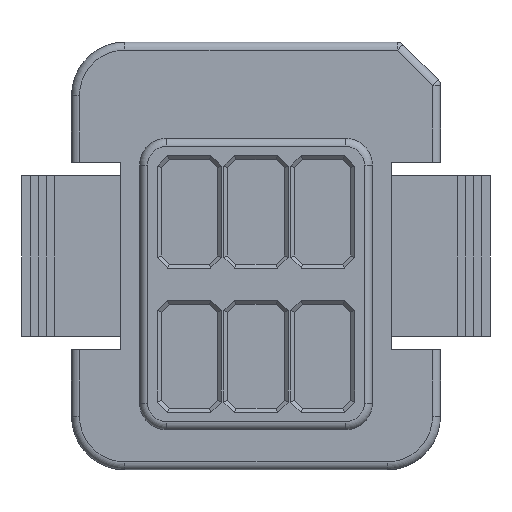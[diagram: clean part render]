
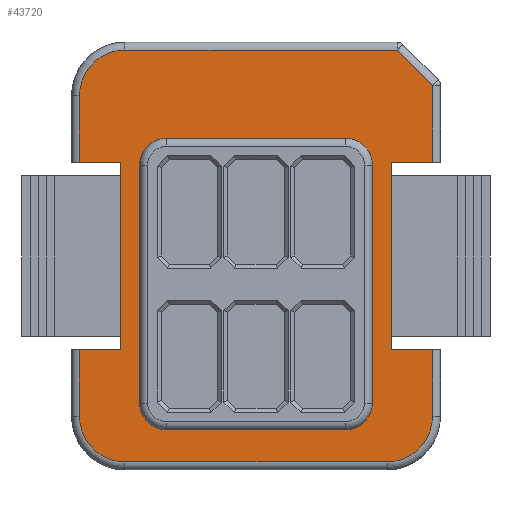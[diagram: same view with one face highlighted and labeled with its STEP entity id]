
A CAD part, front view. The second image highlights one B-rep face of the part: STEP entity #43720.
In plain terms, the highlighted planar face has unit normal (0, -1, 0).
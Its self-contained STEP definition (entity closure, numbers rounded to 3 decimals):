
#3840=CARTESIAN_POINT('',(-4.4,8.639,
4.235));
#3850=VERTEX_POINT('',#3840);
#3880=CARTESIAN_POINT('',(-2.7,8.639,
4.235));
#3890=DIRECTION('',(0.,1.,0.));
#3900=DIRECTION('',(0.,0.,1.));
#3910=AXIS2_PLACEMENT_3D('',#3880,#3890,#3900);
#3920=CIRCLE('',#3910,1.7);
#3930=CARTESIAN_POINT('',(-2.7,8.639,
2.535));
#3940=VERTEX_POINT('',#3930);
#3950=EDGE_CURVE('',#3940,#3850,#3920,.T.);
#4520=CARTESIAN_POINT('',(-2.85,8.639,
13.735));
#4530=VERTEX_POINT('',#4520);
#4560=CARTESIAN_POINT('',(-2.85,8.639,
12.81));
#4570=DIRECTION('',(0.,0.,1.));
#4580=VECTOR('',#4570,1.);
#4590=LINE('',#4560,#4580);
#4600=CARTESIAN_POINT('',(-2.85,8.639,
6.735));
#4610=VERTEX_POINT('',#4600);
#4620=EDGE_CURVE('',#4610,#4530,#4590,.T.);
#10100=CARTESIAN_POINT('',(7.1,8.639,
2.535));
#10110=VERTEX_POINT('',#10100);
#10160=CARTESIAN_POINT('',(7.1,8.639,
4.235));
#10170=DIRECTION('',(0.,-1.,0.));
#10180=DIRECTION('',(0.,0.,-1.));
#10190=AXIS2_PLACEMENT_3D('',#10160,#10170,#10180);
#10200=CIRCLE('',#10190,1.7);
#10210=CARTESIAN_POINT('',(8.8,8.639,
4.235));
#10220=VERTEX_POINT('',#10210);
#10230=EDGE_CURVE('',#10110,#10220,#10200,.T.);
#10550=CARTESIAN_POINT('',(-1.15,8.639,
3.735));
#10560=VERTEX_POINT('',#10550);
#10590=CARTESIAN_POINT('',(-1.15,8.639,
4.735));
#10600=DIRECTION('',(0.,1.,0.));
#10610=DIRECTION('',(0.,0.,1.));
#10620=AXIS2_PLACEMENT_3D('',#10590,#10600,#10610);
#10630=CIRCLE('',#10620,1.);
#10640=CARTESIAN_POINT('',(-2.15,8.639,
4.735));
#10650=VERTEX_POINT('',#10640);
#10660=EDGE_CURVE('',#10560,#10650,#10630,.T.);
#11310=CARTESIAN_POINT('',(-6.65,8.639,
14.635));
#11320=DIRECTION('',(-1.,0.,0.));
#11330=VECTOR('',#11320,1.);
#11340=LINE('',#11310,#11330);
#11350=CARTESIAN_POINT('',(5.55,8.639,
14.635));
#11360=VERTEX_POINT('',#11350);
#11370=CARTESIAN_POINT('',(-1.15,8.639,
14.635));
#11380=VERTEX_POINT('',#11370);
#11390=EDGE_CURVE('',#11360,#11380,#11340,.T.);
#13080=CARTESIAN_POINT('',(5.55,8.639,
3.735));
#13090=VERTEX_POINT('',#13080);
#13120=CARTESIAN_POINT('',(-6.65,8.639,
3.735));
#13130=DIRECTION('',(-1.,0.,0.));
#13140=VECTOR('',#13130,1.);
#13150=LINE('',#13120,#13140);
#13160=EDGE_CURVE('',#13090,#10560,#13150,.T.);
#23860=CARTESIAN_POINT('',(-2.15,8.639,
13.635));
#23870=VERTEX_POINT('',#23860);
#23900=CARTESIAN_POINT('',(-1.15,8.639,
13.635));
#23910=DIRECTION('',(0.,-1.,0.));
#23920=DIRECTION('',(0.,0.,-1.));
#23930=AXIS2_PLACEMENT_3D('',#23900,#23910,#23920);
#23940=CIRCLE('',#23930,1.);
#23950=EDGE_CURVE('',#11380,#23870,#23940,.T.);
#24390=CARTESIAN_POINT('',(-2.15,8.639,
12.81));
#24400=DIRECTION('',(0.,0.,-1.));
#24410=VECTOR('',#24400,1.);
#24420=LINE('',#24390,#24410);
#24430=EDGE_CURVE('',#23870,#10650,#24420,.T.);
#24870=CARTESIAN_POINT('',(-4.4,8.639,
13.735));
#24880=VERTEX_POINT('',#24870);
#24930=CARTESIAN_POINT('',(11.35,8.639,
13.735));
#24940=DIRECTION('',(-1.,0.,0.));
#24950=VECTOR('',#24940,1.);
#24960=LINE('',#24930,#24950);
#24970=EDGE_CURVE('',#4530,#24880,#24960,.T.);
#27510=CARTESIAN_POINT('',(8.8,8.639,
6.735));
#27520=VERTEX_POINT('',#27510);
#27640=CARTESIAN_POINT('',(8.8,8.639,
12.81));
#27650=DIRECTION('',(0.,0.,1.));
#27660=VECTOR('',#27650,1.);
#27670=LINE('',#27640,#27660);
#27680=EDGE_CURVE('',#10220,#27520,#27670,.T.);
#27850=CARTESIAN_POINT('',(-2.7,8.639,
17.935));
#27860=VERTEX_POINT('',#27850);
#27890=CARTESIAN_POINT('',(-2.7,8.639,
16.235));
#27900=DIRECTION('',(0.,-1.,0.));
#27910=DIRECTION('',(0.,0.,-1.));
#27920=AXIS2_PLACEMENT_3D('',#27890,#27900,#27910);
#27930=CIRCLE('',#27920,1.7);
#27940=CARTESIAN_POINT('',(-4.4,8.639,
16.235));
#27950=VERTEX_POINT('',#27940);
#27960=EDGE_CURVE('',#27860,#27950,#27930,.T.);
#28300=CARTESIAN_POINT('',(-4.4,8.639,
12.81));
#28310=DIRECTION('',(0.,0.,1.));
#28320=VECTOR('',#28310,1.);
#28330=LINE('',#28300,#28320);
#28340=EDGE_CURVE('',#24880,#27950,#28330,.T.);
#30950=CARTESIAN_POINT('',(-6.65,8.639,
6.735));
#30960=DIRECTION('',(-1.,0.,0.));
#30970=VECTOR('',#30960,1.);
#30980=LINE('',#30950,#30970);
#30990=CARTESIAN_POINT('',(7.25,8.639,
6.735));
#31000=VERTEX_POINT('',#30990);
#31010=EDGE_CURVE('',#27520,#31000,#30980,.T.);
#40640=CARTESIAN_POINT('',(11.05,8.639,
6.735));
#40650=DIRECTION('',(1.,0.,0.));
#40660=VECTOR('',#40650,1.);
#40670=LINE('',#40640,#40660);
#40680=CARTESIAN_POINT('',(-4.4,8.639,
6.735));
#40690=VERTEX_POINT('',#40680);
#40700=EDGE_CURVE('',#40690,#4610,#40670,.T.);
#41030=CARTESIAN_POINT('',(-4.4,8.639,
12.81));
#41040=DIRECTION('',(0.,0.,1.));
#41050=VECTOR('',#41040,1.);
#41060=LINE('',#41030,#41050);
#41070=EDGE_CURVE('',#3850,#40690,#41060,.T.);
#42170=CARTESIAN_POINT('',(6.55,8.639,
13.635));
#42180=VERTEX_POINT('',#42170);
#42210=CARTESIAN_POINT('',(6.55,8.639,
12.81));
#42220=DIRECTION('',(0.,0.,-1.));
#42230=VECTOR('',#42220,1.);
#42240=LINE('',#42210,#42230);
#42250=CARTESIAN_POINT('',(6.55,8.639,
4.735));
#42260=VERTEX_POINT('',#42250);
#42270=EDGE_CURVE('',#42180,#42260,#42240,.T.);
#42830=CARTESIAN_POINT('',(-6.65,8.639,
2.535));
#42840=DIRECTION('',(1.,0.,0.));
#42850=VECTOR('',#42840,1.);
#42860=LINE('',#42830,#42850);
#42870=EDGE_CURVE('',#3940,#10110,#42860,.T.);
#42940=CARTESIAN_POINT('',(-9.05,8.639,
10.035));
#42950=DIRECTION('',(0.,1.,-0.));
#42960=DIRECTION('',(-1.,0.,0.));
#42970=AXIS2_PLACEMENT_3D('',#42940,#42950,#42960);
#42980=PLANE('',#42970);
#42990=CARTESIAN_POINT('',(12.601,8.639,
12.81));
#43000=DIRECTION('',(-0.707,0.,0.707));
#43010=VECTOR('',#43000,1.);
#43020=LINE('',#42990,#43010);
#43030=CARTESIAN_POINT('',(8.8,8.639,
16.611));
#43040=VERTEX_POINT('',#43030);
#43050=CARTESIAN_POINT('',(7.476,8.639,
17.935));
#43060=VERTEX_POINT('',#43050);
#43070=EDGE_CURVE('',#43040,#43060,#43020,.T.);
#43080=ORIENTED_EDGE('',*,*,#43070,.T.);
#43090=CARTESIAN_POINT('',(8.8,8.639,
12.81));
#43100=DIRECTION('',(0.,0.,1.));
#43110=VECTOR('',#43100,1.);
#43120=LINE('',#43090,#43110);
#43130=CARTESIAN_POINT('',(8.8,8.639,
13.735));
#43140=VERTEX_POINT('',#43130);
#43150=EDGE_CURVE('',#43140,#43040,#43120,.T.);
#43160=ORIENTED_EDGE('',*,*,#43150,.T.);
#43170=CARTESIAN_POINT('',(-6.95,8.639,
13.735));
#43180=DIRECTION('',(1.,0.,0.));
#43190=VECTOR('',#43180,1.);
#43200=LINE('',#43170,#43190);
#43210=CARTESIAN_POINT('',(7.25,8.639,
13.735));
#43220=VERTEX_POINT('',#43210);
#43230=EDGE_CURVE('',#43220,#43140,#43200,.T.);
#43240=ORIENTED_EDGE('',*,*,#43230,.T.);
#43250=CARTESIAN_POINT('',(7.25,8.639,
12.81));
#43260=DIRECTION('',(0.,0.,-1.));
#43270=VECTOR('',#43260,1.);
#43280=LINE('',#43250,#43270);
#43290=EDGE_CURVE('',#43220,#31000,#43280,.T.);
#43300=ORIENTED_EDGE('',*,*,#43290,.F.);
#43310=ORIENTED_EDGE('',*,*,#31010,.T.);
#43320=ORIENTED_EDGE('',*,*,#27680,.T.);
#43330=ORIENTED_EDGE('',*,*,#10230,.T.);
#43340=ORIENTED_EDGE('',*,*,#42870,.T.);
#43350=ORIENTED_EDGE('',*,*,#3950,.F.);
#43360=ORIENTED_EDGE('',*,*,#41070,.F.);
#43370=ORIENTED_EDGE('',*,*,#40700,.F.);
#43380=ORIENTED_EDGE('',*,*,#4620,.F.);
#43390=ORIENTED_EDGE('',*,*,#24970,.F.);
#43400=ORIENTED_EDGE('',*,*,#28340,.F.);
#43410=ORIENTED_EDGE('',*,*,#27960,.T.);
#43420=CARTESIAN_POINT('',(-6.65,8.639,
17.935));
#43430=DIRECTION('',(-1.,0.,0.));
#43440=VECTOR('',#43430,1.);
#43450=LINE('',#43420,#43440);
#43460=EDGE_CURVE('',#43060,#27860,#43450,.T.);
#43470=ORIENTED_EDGE('',*,*,#43460,.T.);
#43480=EDGE_LOOP('',(#43470,#43410,#43400,#43390,#43380,#43370,#43360,
#43350,#43340,#43330,#43320,#43310,#43300,#43240,#43160,#43080));
#43490=FACE_OUTER_BOUND('',#43480,.T.);
#43500=ORIENTED_EDGE('',*,*,#23950,.F.);
#43510=ORIENTED_EDGE('',*,*,#24430,.F.);
#43520=ORIENTED_EDGE('',*,*,#10660,.T.);
#43530=ORIENTED_EDGE('',*,*,#13160,.T.);
#43540=CARTESIAN_POINT('',(5.55,8.639,
4.735));
#43550=DIRECTION('',(0.,-1.,0.));
#43560=DIRECTION('',(0.,0.,-1.));
#43570=AXIS2_PLACEMENT_3D('',#43540,#43550,#43560);
#43580=CIRCLE('',#43570,1.);
#43590=EDGE_CURVE('',#13090,#42260,#43580,.T.);
#43600=ORIENTED_EDGE('',*,*,#43590,.F.);
#43610=ORIENTED_EDGE('',*,*,#42270,.T.);
#43620=CARTESIAN_POINT('',(5.55,8.639,
13.635));
#43630=DIRECTION('',(0.,1.,0.));
#43640=DIRECTION('',(0.,0.,1.));
#43650=AXIS2_PLACEMENT_3D('',#43620,#43630,#43640);
#43660=CIRCLE('',#43650,1.);
#43670=EDGE_CURVE('',#11360,#42180,#43660,.T.);
#43680=ORIENTED_EDGE('',*,*,#43670,.T.);
#43690=ORIENTED_EDGE('',*,*,#11390,.F.);
#43700=EDGE_LOOP('',(#43690,#43680,#43610,#43600,#43530,#43520,#43510,
#43500));
#43710=FACE_BOUND('',#43700,.T.);
#43720=ADVANCED_FACE('',(#43490,#43710),#42980,.F.);
